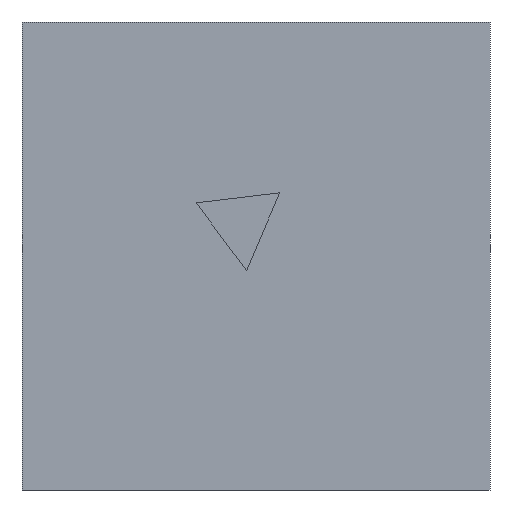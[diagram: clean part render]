
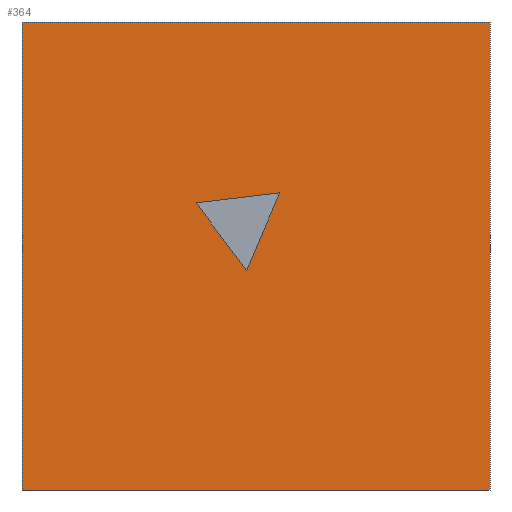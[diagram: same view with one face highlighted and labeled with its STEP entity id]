
A CAD part, front view. The second image highlights one B-rep face of the part: STEP entity #364.
In plain terms, the highlighted planar face has unit normal (0, -1, 0).
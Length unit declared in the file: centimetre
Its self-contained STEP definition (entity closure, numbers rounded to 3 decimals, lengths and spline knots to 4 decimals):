
#8 = DIRECTION ( 'NONE',  ( 0., 1., 0. ) ) ;
#28 = CARTESIAN_POINT ( 'NONE',  ( 0., 0., 1000. ) ) ;
#33 = EDGE_CURVE ( 'NONE', #391, #263, #164, .T. ) ;
#35 = ORIENTED_EDGE ( 'NONE', *, *, #33, .T. ) ;
#72 = CARTESIAN_POINT ( 'NONE',  ( 479.8624, 0., 469.3101 ) ) ;
#81 = VERTEX_POINT ( 'NONE', #271 ) ;
#88 = VECTOR ( 'NONE', #243, 100. ) ;
#100 = CARTESIAN_POINT ( 'NONE',  ( 0., 0., 0. ) ) ;
#108 = ORIENTED_EDGE ( 'NONE', *, *, #233, .F. ) ;
#112 = VECTOR ( 'NONE', #133, 100. ) ;
#114 = CARTESIAN_POINT ( 'NONE',  ( 550.8071, 0., 634.9992 ) ) ;
#115 = VERTEX_POINT ( 'NONE', #197 ) ;
#128 = EDGE_CURVE ( 'NONE', #369, #475, #280, .T. ) ;
#129 = CARTESIAN_POINT ( 'NONE',  ( 550.8071, 0., 634.9992 ) ) ;
#133 = DIRECTION ( 'NONE',  ( 0., 0., -1. ) ) ;
#136 = DIRECTION ( 'NONE',  ( 0., 0., 1. ) ) ;
#159 = DIRECTION ( 'NONE',  ( 1., 0., 0. ) ) ;
#164 = LINE ( 'NONE', #332, #456 ) ;
#166 = DIRECTION ( 'NONE',  ( -0.993, 0., -0.119 ) ) ;
#185 = ORIENTED_EDGE ( 'NONE', *, *, #279, .F. ) ;
#197 = CARTESIAN_POINT ( 'NONE',  ( 0., 0., 1000. ) ) ;
#214 = ORIENTED_EDGE ( 'NONE', *, *, #128, .F. ) ;
#226 = FACE_OUTER_BOUND ( 'NONE', #388, .T. ) ;
#233 = EDGE_CURVE ( 'NONE', #480, #369, #465, .T. ) ;
#240 = EDGE_LOOP ( 'NONE', ( #316, #214, #108 ) ) ;
#243 = DIRECTION ( 'NONE',  ( 0.394, 0., 0.919 ) ) ;
#259 = CARTESIAN_POINT ( 'NONE',  ( 1000., 0., 1000. ) ) ;
#263 = VERTEX_POINT ( 'NONE', #344 ) ;
#271 = CARTESIAN_POINT ( 'NONE',  ( 1000., 0., 1000. ) ) ;
#274 = CARTESIAN_POINT ( 'NONE',  ( 371.8437, 0., 613.5946 ) ) ;
#279 = EDGE_CURVE ( 'NONE', #81, #263, #336, .T. ) ;
#280 = LINE ( 'NONE', #274, #366 ) ;
#286 = LINE ( 'NONE', #413, #337 ) ;
#289 = LINE ( 'NONE', #455, #88 ) ;
#312 = PLANE ( 'NONE',  #510 ) ;
#314 = ORIENTED_EDGE ( 'NONE', *, *, #523, .F. ) ;
#316 = ORIENTED_EDGE ( 'NONE', *, *, #435, .F. ) ;
#327 = DIRECTION ( 'NONE',  ( 0., 0., -1. ) ) ;
#332 = CARTESIAN_POINT ( 'NONE',  ( 0., 0., 0. ) ) ;
#336 = LINE ( 'NONE', #259, #112 ) ;
#337 = VECTOR ( 'NONE', #327, 100. ) ;
#344 = CARTESIAN_POINT ( 'NONE',  ( 1000., 0., 0. ) ) ;
#351 = CARTESIAN_POINT ( 'NONE',  ( 371.8437, 0., 613.5946 ) ) ;
#364 = ADVANCED_FACE ( 'NONE', ( #518, #226 ), #312, .F. ) ;
#366 = VECTOR ( 'NONE', #479, 100. ) ;
#369 = VERTEX_POINT ( 'NONE', #351 ) ;
#373 = VECTOR ( 'NONE', #159, 100. ) ;
#388 = EDGE_LOOP ( 'NONE', ( #35, #185, #314, #517 ) ) ;
#390 = CARTESIAN_POINT ( 'NONE',  ( 0., 0., 1000. ) ) ;
#391 = VERTEX_POINT ( 'NONE', #100 ) ;
#405 = LINE ( 'NONE', #28, #373 ) ;
#413 = CARTESIAN_POINT ( 'NONE',  ( 0., 0., 1000. ) ) ;
#435 = EDGE_CURVE ( 'NONE', #475, #480, #289, .T. ) ;
#455 = CARTESIAN_POINT ( 'NONE',  ( 479.8624, 0., 469.3101 ) ) ;
#456 = VECTOR ( 'NONE', #483, 100. ) ;
#465 = LINE ( 'NONE', #129, #514 ) ;
#475 = VERTEX_POINT ( 'NONE', #72 ) ;
#479 = DIRECTION ( 'NONE',  ( 0.599, 0., -0.801 ) ) ;
#480 = VERTEX_POINT ( 'NONE', #114 ) ;
#483 = DIRECTION ( 'NONE',  ( 1., 0., 0. ) ) ;
#510 = AXIS2_PLACEMENT_3D ( 'NONE', #390, #8, #136 ) ;
#514 = VECTOR ( 'NONE', #166, 100. ) ;
#517 = ORIENTED_EDGE ( 'NONE', *, *, #529, .T. ) ;
#518 = FACE_BOUND ( 'NONE', #240, .T. ) ;
#523 = EDGE_CURVE ( 'NONE', #115, #81, #405, .T. ) ;
#529 = EDGE_CURVE ( 'NONE', #115, #391, #286, .T. ) ;
